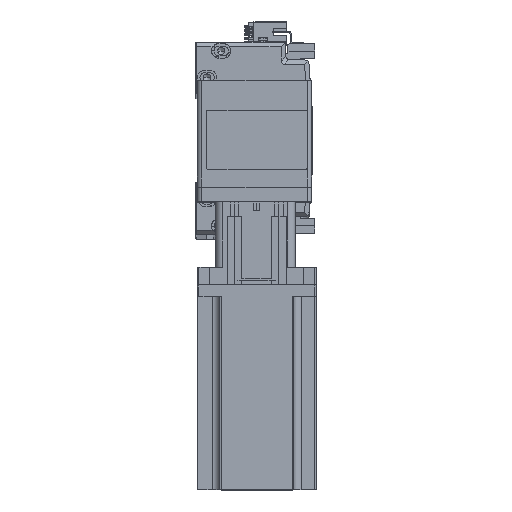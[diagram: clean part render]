
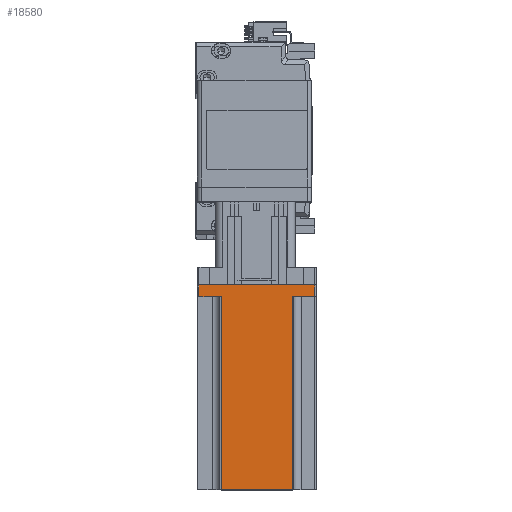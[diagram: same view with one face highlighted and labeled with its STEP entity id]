
A CAD part, top view. The second image highlights one B-rep face of the part: STEP entity #18580.
In plain terms, the highlighted planar face has unit normal (0, 0, 1) as drawn and (0, 1, 0) by its records, which use the part's own axes.
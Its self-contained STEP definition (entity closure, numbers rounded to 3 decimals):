
#814 = EDGE_CURVE ( 'NONE', #41212, #6544, #7713, .T. ) ;
#2153 = VECTOR ( 'NONE', #2763, 1000. ) ;
#2763 = DIRECTION ( 'NONE',  ( -1., 0., 0. ) ) ;
#3497 = VERTEX_POINT ( 'NONE', #42849 ) ;
#4429 = EDGE_CURVE ( 'NONE', #32609, #28155, #44082, .T. ) ;
#4904 = ORIENTED_EDGE ( 'NONE', *, *, #55001, .T. ) ;
#5810 = EDGE_CURVE ( 'NONE', #36916, #41212, #13720, .T. ) ;
#6544 = VERTEX_POINT ( 'NONE', #15474 ) ;
#7713 = LINE ( 'NONE', #32364, #31565 ) ;
#8261 = DIRECTION ( 'NONE',  ( -1., 0., 0. ) ) ;
#9043 = CARTESIAN_POINT ( 'NONE',  ( -24., 40., 138.3 ) ) ;
#9146 = CARTESIAN_POINT ( 'NONE',  ( -24., 40., 138.3 ) ) ;
#12282 = AXIS2_PLACEMENT_3D ( 'NONE', #40370, #13588, #44883 ) ;
#13284 = VECTOR ( 'NONE', #8261, 1000. ) ;
#13588 = DIRECTION ( 'NONE',  ( 0., -1., 0. ) ) ;
#13720 = LINE ( 'NONE', #54635, #48020 ) ;
#15474 = CARTESIAN_POINT ( 'NONE',  ( -39., 40., 0. ) ) ;
#17364 = ORIENTED_EDGE ( 'NONE', *, *, #814, .T. ) ;
#17474 = EDGE_CURVE ( 'NONE', #3497, #28155, #28844, .T. ) ;
#17742 = PLANE ( 'NONE',  #12282 ) ;
#18365 = VERTEX_POINT ( 'NONE', #29681 ) ;
#18580 = ADVANCED_FACE ( 'NONE', ( #32115 ), #17742, .F. ) ;
#19585 = ORIENTED_EDGE ( 'NONE', *, *, #17474, .F. ) ;
#20140 = CARTESIAN_POINT ( 'NONE',  ( 24., 40., 138.3 ) ) ;
#21011 = ORIENTED_EDGE ( 'NONE', *, *, #52076, .F. ) ;
#21727 = VECTOR ( 'NONE', #53756, 1000. ) ;
#22004 = VERTEX_POINT ( 'NONE', #33854 ) ;
#22024 = CARTESIAN_POINT ( 'NONE',  ( 39., 40., 0. ) ) ;
#22038 = EDGE_LOOP ( 'NONE', ( #4904, #38213, #19585, #25723, #21011, #23167, #17364, #51090 ) ) ;
#22424 = VECTOR ( 'NONE', #57215, 1000. ) ;
#22907 = VECTOR ( 'NONE', #40124, 1000. ) ;
#23167 = ORIENTED_EDGE ( 'NONE', *, *, #5810, .T. ) ;
#25723 = ORIENTED_EDGE ( 'NONE', *, *, #40445, .T. ) ;
#28155 = VERTEX_POINT ( 'NONE', #9043 ) ;
#28844 = LINE ( 'NONE', #47635, #2153 ) ;
#29681 = CARTESIAN_POINT ( 'NONE',  ( 24., 40., 8. ) ) ;
#30507 = LINE ( 'NONE', #20140, #52841 ) ;
#31565 = VECTOR ( 'NONE', #33756, 1000. ) ;
#32115 = FACE_OUTER_BOUND ( 'NONE', #22038, .T. ) ;
#32364 = CARTESIAN_POINT ( 'NONE',  ( 40., 40., 0. ) ) ;
#32609 = VERTEX_POINT ( 'NONE', #36983 ) ;
#33756 = DIRECTION ( 'NONE',  ( -1., 0., 0. ) ) ;
#33854 = CARTESIAN_POINT ( 'NONE',  ( -39., 40., 8. ) ) ;
#35654 = CARTESIAN_POINT ( 'NONE',  ( -39., 40., 138.3 ) ) ;
#35709 = LINE ( 'NONE', #52738, #22424 ) ;
#36916 = VERTEX_POINT ( 'NONE', #47352 ) ;
#36983 = CARTESIAN_POINT ( 'NONE',  ( -24., 40., 8. ) ) ;
#38213 = ORIENTED_EDGE ( 'NONE', *, *, #4429, .T. ) ;
#38492 = LINE ( 'NONE', #48380, #13284 ) ;
#40124 = DIRECTION ( 'NONE',  ( 0., 0., 1. ) ) ;
#40370 = CARTESIAN_POINT ( 'NONE',  ( 40., 40., 138.3 ) ) ;
#40445 = EDGE_CURVE ( 'NONE', #3497, #18365, #30507, .T. ) ;
#41212 = VERTEX_POINT ( 'NONE', #22024 ) ;
#42849 = CARTESIAN_POINT ( 'NONE',  ( 24., 40., 138.3 ) ) ;
#44082 = LINE ( 'NONE', #9146, #21727 ) ;
#44883 = DIRECTION ( 'NONE',  ( 1., 0., 0. ) ) ;
#45123 = EDGE_CURVE ( 'NONE', #6544, #22004, #46667, .T. ) ;
#46667 = LINE ( 'NONE', #35654, #22907 ) ;
#46865 = DIRECTION ( 'NONE',  ( 0., 0., -1. ) ) ;
#47352 = CARTESIAN_POINT ( 'NONE',  ( 39., 40., 8. ) ) ;
#47635 = CARTESIAN_POINT ( 'NONE',  ( 40., 40., 138.3 ) ) ;
#48020 = VECTOR ( 'NONE', #50189, 1000. ) ;
#48380 = CARTESIAN_POINT ( 'NONE',  ( 25., 40., 8. ) ) ;
#50189 = DIRECTION ( 'NONE',  ( 0., 0., -1. ) ) ;
#51090 = ORIENTED_EDGE ( 'NONE', *, *, #45123, .T. ) ;
#52076 = EDGE_CURVE ( 'NONE', #36916, #18365, #38492, .T. ) ;
#52738 = CARTESIAN_POINT ( 'NONE',  ( -25., 40., 8. ) ) ;
#52841 = VECTOR ( 'NONE', #46865, 1000. ) ;
#53756 = DIRECTION ( 'NONE',  ( 0., 0., 1. ) ) ;
#54635 = CARTESIAN_POINT ( 'NONE',  ( 39., 40., 138.3 ) ) ;
#55001 = EDGE_CURVE ( 'NONE', #22004, #32609, #35709, .T. ) ;
#57215 = DIRECTION ( 'NONE',  ( 1., 0., 0. ) ) ;
